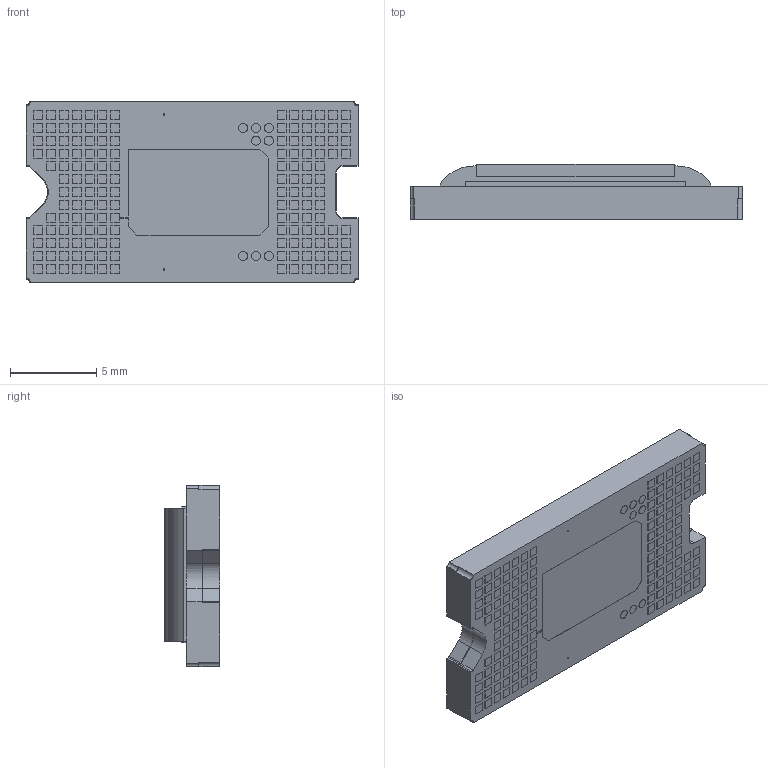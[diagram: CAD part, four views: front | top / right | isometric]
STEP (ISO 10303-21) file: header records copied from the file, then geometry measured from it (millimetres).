
FILE_DESCRIPTION (( 'STEP AP214' ), '1' );
FILE_NAME ('s322-DMD-Assy-wPads-FSD.STEP', '2026-01-23T17:02:39', ( '' ), ( '' ), 'SwSTEP 2.0', 'SolidWorks 2024', '' );
FILE_SCHEMA (( 'AUTOMOTIVE_DESIGN' ));
Length unit declared in the file: millimetre
Products named in the file (7): Ceramic-s322-FSD; Window-s322-FSD; SymPad-s322-FSD; Elec-Pad-s322-DMD; s322-DMD-Assy-wPads-FSD; Test-Elec-Pad-s322; s322-Pad-Pattern-FSD
Assembly tree (163 placements, depth 3):
  s322-DMD-Assy-wPads-FSD
    Ceramic-s322-FSD
    Window-s322-FSD
    s322-Pad-Pattern-FSD
      Elec-Pad-s322-DMD  x151
      Test-Elec-Pad-s322  x8
    SymPad-s322-FSD
Bounding box: 19.25 x 3.22 x 10.5 mm (x, y, z)
Volume: 494 mm3; surface area: 990.8 mm2
Topology: 162 solids, 162 shells, 1059 faces, 2177 edges, 1448 vertices
Faces by surface type: plane 1015, cylinder 44
Entity records: 5398 total; most frequent: DIRECTION 991, CARTESIAN_POINT 853, ORIENTED_EDGE 670, AXIS2_PLACEMENT_3D 358, EDGE_CURVE 335, VECTOR 275, LINE 275, VERTEX_POINT 220
